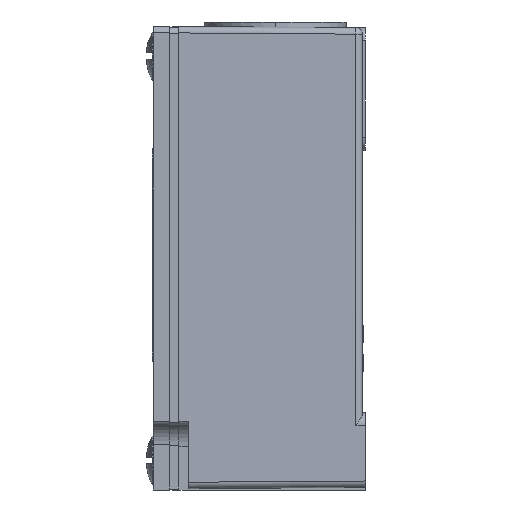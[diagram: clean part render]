
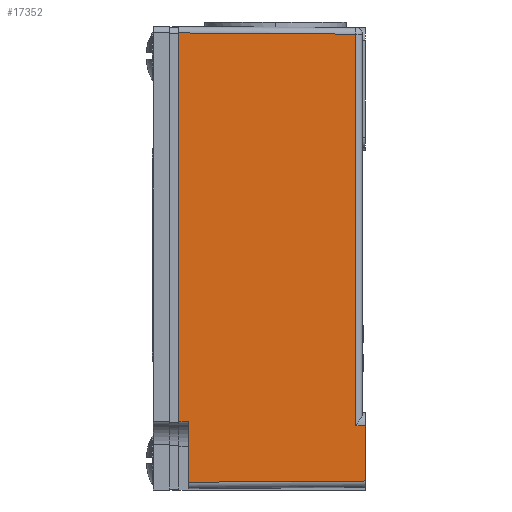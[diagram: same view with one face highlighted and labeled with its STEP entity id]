
A CAD part, left-side view. The second image highlights one B-rep face of the part: STEP entity #17352.
In plain terms, the highlighted planar face has unit normal (-1, -0.007, 0).
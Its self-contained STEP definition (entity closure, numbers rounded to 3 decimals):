
#3078=DIRECTION('',(0.,0.,-1.));
#3079=VECTOR('',#3078,60.3);
#3080=CARTESIAN_POINT('',(-18.,14.5,71.));
#3081=LINE('',#3080,#3079);
#3377=DIRECTION('',(0.,0.,-1.));
#3378=VECTOR('',#3377,8.6);
#3379=CARTESIAN_POINT('',(-17.8,-14.5,10.));
#3380=LINE('',#3379,#3378);
#3384=DIRECTION('',(0.,0.,-1.));
#3385=VECTOR('',#3384,9.49);
#3386=CARTESIAN_POINT('',(-17.99,13.,10.7));
#3387=LINE('',#3386,#3385);
#3391=DIRECTION('',(0.007,-1.,0.));
#3392=VECTOR('',#3391,1.5);
#3393=CARTESIAN_POINT('',(-18.,14.5,10.7));
#3394=LINE('',#3393,#3392);
#3398=DIRECTION('',(0.,0.,-1.));
#3399=VECTOR('',#3398,60.81);
#3400=CARTESIAN_POINT('',(-17.81,-13.007,
70.81));
#3401=LINE('',#3400,#3399);
#3447=DIRECTION('',(-0.007,1.,0.007));
#3448=VECTOR('',#3447,27.508);
#3449=CARTESIAN_POINT('',(-17.81,-13.007,
70.81));
#3450=LINE('',#3449,#3448);
#3454=CARTESIAN_POINT('',(-18.,14.5,71.));
#3689=DIRECTION('',(-0.007,1.,0.));
#3690=VECTOR('',#3689,1.493);
#3691=CARTESIAN_POINT('',(-17.8,-14.5,10.));
#3692=LINE('',#3691,#3690);
#3720=CARTESIAN_POINT('',(-17.8,-14.5,10.));
#3912=DIRECTION('',(0.007,-1.,0.007));
#3913=VECTOR('',#3912,27.501);
#3914=CARTESIAN_POINT('',(-17.99,13.,1.21));
#3915=LINE('',#3914,#3913);
#14082=VERTEX_POINT('',#3720);
#14091=CARTESIAN_POINT('',(-18.,14.5,10.7));
#14092=CARTESIAN_POINT('',(-17.99,13.,10.7));
#14093=VERTEX_POINT('',#14091);
#14094=VERTEX_POINT('',#14092);
#14163=VERTEX_POINT('',#3454);
#14173=CARTESIAN_POINT('',(-17.8,-14.5,1.4));
#14174=VERTEX_POINT('',#14173);
#14175=CARTESIAN_POINT('',(-17.99,13.,1.21));
#14176=VERTEX_POINT('',#14175);
#14193=CARTESIAN_POINT('',(-17.81,-13.007,
70.81));
#14194=CARTESIAN_POINT('',(-17.81,-13.007,10.));
#14195=VERTEX_POINT('',#14193);
#14196=VERTEX_POINT('',#14194);
#17331=CARTESIAN_POINT('',(-17.8,-14.5,0.));
#17332=DIRECTION('',(-1.,-0.007,0.));
#17333=DIRECTION('',(-0.007,1.,0.));
#17334=AXIS2_PLACEMENT_3D('',#17331,#17332,#17333);
#17335=PLANE('',#17334);
#17337=ORIENTED_EDGE('',*,*,#17336,.T.);
#17339=ORIENTED_EDGE('',*,*,#17338,.F.);
#17341=ORIENTED_EDGE('',*,*,#17340,.T.);
#17343=ORIENTED_EDGE('',*,*,#17342,.F.);
#17345=ORIENTED_EDGE('',*,*,#17344,.F.);
#17346=ORIENTED_EDGE('',*,*,#17316,.F.);
#17347=ORIENTED_EDGE('',*,*,#16962,.F.);
#17349=ORIENTED_EDGE('',*,*,#17348,.F.);
#17350=EDGE_LOOP('',(#17337,#17339,#17341,#17343,#17345,#17346,#17347,#17349));
#17351=FACE_OUTER_BOUND('',#17350,.F.);
#16962=EDGE_CURVE('',#14163,#14093,#3081,.T.);
#17316=EDGE_CURVE('',#14093,#14094,#3394,.T.);
#17336=EDGE_CURVE('',#14195,#14196,#3401,.T.);
#17338=EDGE_CURVE('',#14082,#14196,#3692,.T.);
#17340=EDGE_CURVE('',#14082,#14174,#3380,.T.);
#17342=EDGE_CURVE('',#14176,#14174,#3915,.T.);
#17344=EDGE_CURVE('',#14094,#14176,#3387,.T.);
#17348=EDGE_CURVE('',#14195,#14163,#3450,.T.);
#17352=ADVANCED_FACE('',(#17351),#17335,.T.);
